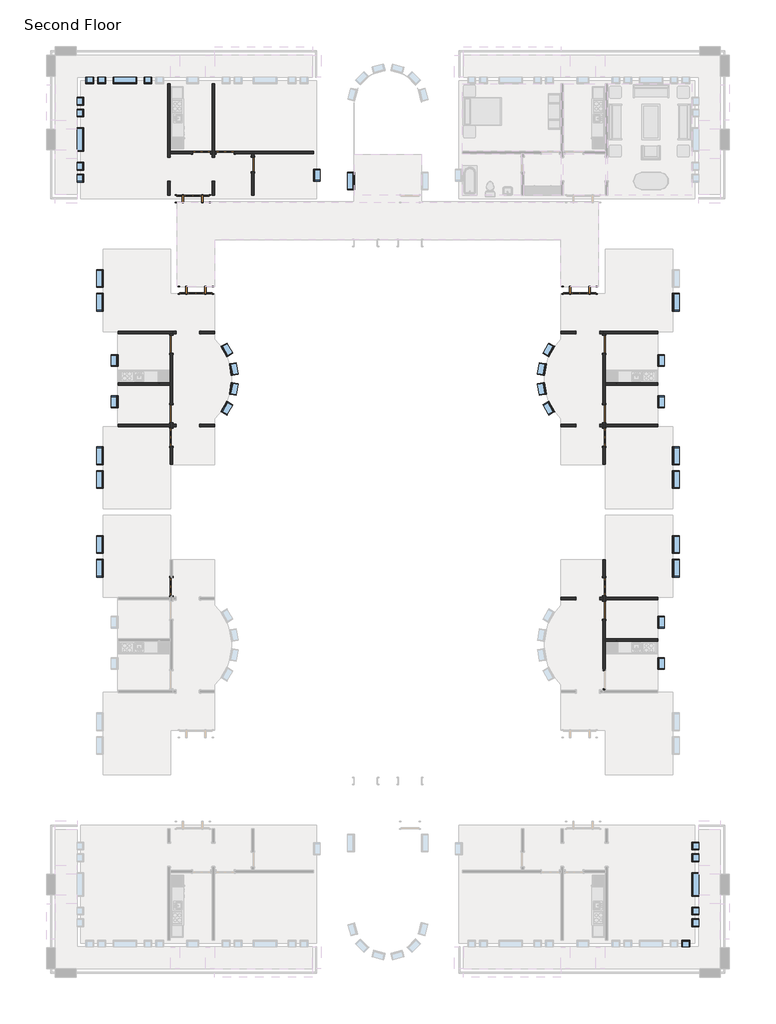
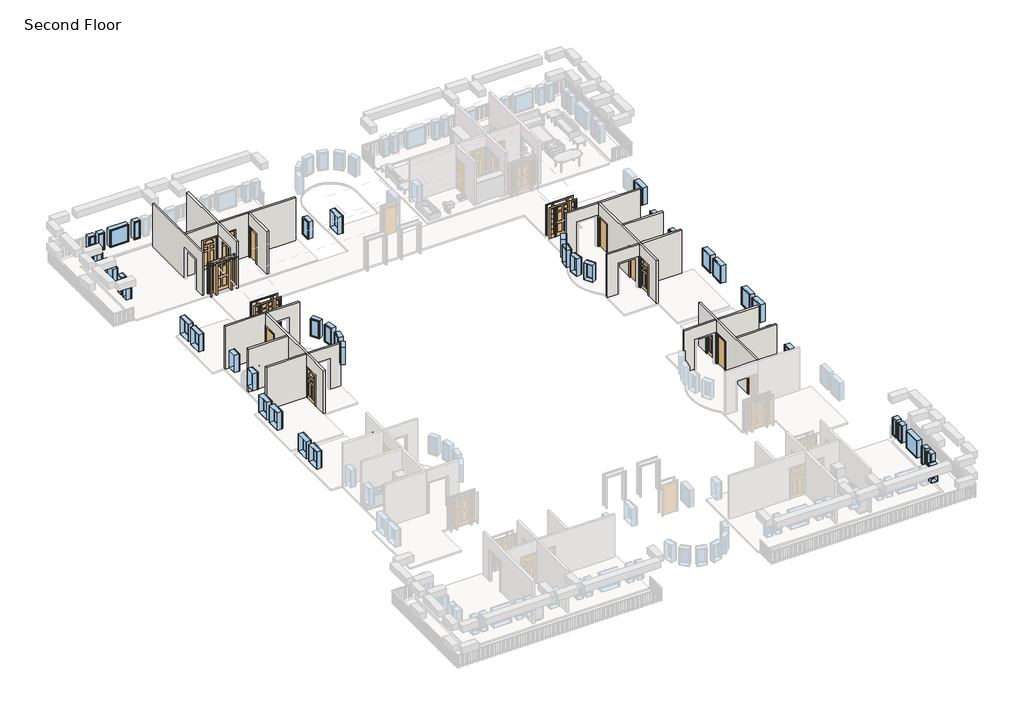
# One storey, part 2 of 4: 42 windows, 21 walls, 15 doors.
"""IFC4 building model written with IfcOpenShell, lengths in millimetres."""

from ifc_helpers import new_model, si_unit, frame, origin, place, context, project, spatial, polyline, outline, extrude, faceted_brep, transform, mapped, element, save
from components import door_829da954, door_2e3b4da2, door_e36758a9, door_a1797ceb, door_a3eb833a, door_dba5aa2e, door_ffdb1193, window_da97879f, window_d61ef850, window_60baf983, window_ed80354a, window_15c49d37, window_0e2fc6ce, window_d89bf842

model = new_model("IFC4")

# Units and contexts
model_context = context("Model", 3, world=origin())
ifc_project = project(units=[si_unit("LENGTHUNIT", "METRE", prefix="MILLI")], contexts=[model_context])

# Site, building, storey
site = spatial("IfcSite", under=ifc_project)
building = spatial("IfcBuilding", under=site)
storey = spatial("IfcBuildingStorey", under=building, Name="Second Floor", Elevation=3048.0)

# Doors
placement = place(None, origin())
door_shape = door_829da954(model_context)
element("IfcDoor", 1, ObjectType="Single-Decorative 2 : 36\" x 84\"", at=placement, inside=storey, context=model_context, shape_type="MappedRepresentation", body=[
    mapped(door_shape, transform((-3900.4589563, -7954.4808133, 3048.0), x_axis=(0.0, 1.0, 0.0), y_axis=(-1.0, 0.0, 0.0), z_axis=(0.0, 0.0, 1.0))),
])
element("IfcDoor", 2, ObjectType="Single-Decorative 2 : 36\" x 84\"", at=placement, inside=storey, context=model_context, shape_type="MappedRepresentation", body=[
    mapped(door_shape, transform((-23455.2839563, 6723.5441867, 3048.0), x_axis=(-1.0, 0.0, 0.0), y_axis=(0.0, -1.0, 0.0), z_axis=(0.0, 0.0, 1.0))),
])
element("IfcDoor", 3, ObjectType="Single-Decorative 2 : 36\" x 84\"", at=placement, inside=storey, context=model_context, shape_type="MappedRepresentation", body=[
    mapped(door_shape, transform((-26223.8839563, -15653.8558133, 3048.0), x_axis=(0.0, -1.0, 0.0), y_axis=(1.0, 0.0, 0.0), z_axis=(0.0, 0.0, 1.0))),
])
door_2_shape = door_2e3b4da2(model_context)
element("IfcDoor", 4, ObjectType="Single-Decorative 2 : 36\" x 84\"", at=placement, inside=storey, context=model_context, shape_type="MappedRepresentation", body=[
    mapped(door_2_shape, transform((-24674.4839563, 6723.5441867, 3048.0), x_axis=(1.0, 0.0, 0.0), y_axis=(0.0, 1.0, 0.0), z_axis=(0.0, 0.0, 1.0))),
])
element("IfcDoor", 5, ObjectType="Single-Decorative 2 : 36\" x 84\"", at=placement, inside=storey, context=model_context, shape_type="MappedRepresentation", body=[
    mapped(door_2_shape, transform((-26223.8839563, -7954.4808133, 3048.0), x_axis=(0.0, 1.0, 0.0), y_axis=(-1.0, 0.0, 0.0), z_axis=(0.0, 0.0, 1.0))),
])
element("IfcDoor", 6, ObjectType="Single-Decorative 2 : 36\" x 84\"", at=placement, inside=storey, context=model_context, shape_type="MappedRepresentation", body=[
    mapped(door_2_shape, transform((-3900.4589563, -15653.8558133, 3048.0), x_axis=(0.0, -1.0, 0.0), y_axis=(1.0, 0.0, 0.0), z_axis=(0.0, 0.0, 1.0))),
])
door_3_shape = door_e36758a9(model_context)
element("IfcDoor", 7, ObjectType="Single-Flush : 30\" x 84\"", at=placement, inside=storey, context=model_context, shape_type="MappedRepresentation", body=[
    mapped(door_3_shape, transform((-22018.5964563, 6113.9441867, 3048.0), x_axis=(0.0, 1.0, 0.0), y_axis=(-1.0, 0.0, 0.0), z_axis=(0.0, 0.0, 1.0))),
])
door_4_shape = door_a1797ceb(model_context)
element("IfcDoor", 8, ObjectType="Single-Flush : 36\" x 84\"", at=placement, inside=storey, context=model_context, shape_type="MappedRepresentation", body=[
    mapped(door_4_shape, transform((-3900.4589563, -6735.2808133, 3048.0), x_axis=(0.0, -1.0, 0.0), y_axis=(1.0, 0.0, 0.0), z_axis=(0.0, 0.0, 1.0))),
])
element("IfcDoor", 9, ObjectType="Single-Flush : 36\" x 84\"", at=placement, inside=storey, context=model_context, shape_type="MappedRepresentation", body=[
    mapped(door_4_shape, transform((-26223.8839563, -3157.0558133, 3048.0), x_axis=(0.0, 1.0, 0.0), y_axis=(-1.0, 0.0, 0.0), z_axis=(0.0, 0.0, 1.0))),
])
door_5_shape = door_a3eb833a(model_context)
element("IfcDoor", 10, ObjectType="Single-Flush : 36\" x 84\"", at=placement, inside=storey, context=model_context, shape_type="MappedRepresentation", body=[
    mapped(door_5_shape, transform((-3900.4589563, -3157.0558133, 3048.0), x_axis=(0.0, 1.0, 0.0), y_axis=(-1.0, 0.0, 0.0), z_axis=(0.0, 0.0, 1.0))),
])
element("IfcDoor", 11, ObjectType="Single-Flush : 36\" x 84\"", at=placement, inside=storey, context=model_context, shape_type="MappedRepresentation", body=[
    mapped(door_5_shape, transform((-26223.8839563, -6735.2808133, 3048.0), x_axis=(0.0, -1.0, 0.0), y_axis=(1.0, 0.0, 0.0), z_axis=(0.0, 0.0, 1.0))),
])
element("IfcDoor", 12, ObjectType="Single-Flush : 36\" x 84\"", at=placement, inside=storey, context=model_context, shape_type="MappedRepresentation", body=[
    mapped(door_5_shape, transform((-3900.4589563, -16873.0558133, 3048.0), x_axis=(0.0, 1.0, 0.0), y_axis=(-1.0, 0.0, 0.0), z_axis=(0.0, 0.0, 1.0))),
])
door_6_shape = door_dba5aa2e(model_context)
element("IfcDoor", 13, ObjectType="Single-Raised Panel with Sidelights : 36\" x 84\"", at=placement, inside=storey, context=model_context, shape_type="MappedRepresentation", body=[
    mapped(door_6_shape, transform((-24968.1714563, -374.1683133, 3048.0), x_axis=(1.0, 0.0, 0.0), y_axis=(0.0, 1.0, 0.0), z_axis=(0.0, 0.0, 1.0))),
])
door_7_shape = door_ffdb1193(model_context)
element("IfcDoor", 14, ObjectType="Single-Raised Panel with Sidelights : 36\" x 84\"", at=placement, inside=storey, context=model_context, shape_type="MappedRepresentation", body=[
    mapped(door_7_shape, transform((-5156.1714563, -374.1683133, 3048.0), x_axis=(-1.0, 0.0, 0.0), y_axis=(0.0, -1.0, 0.0), z_axis=(0.0, 0.0, 1.0))),
])
element("IfcDoor", 15, ObjectType="Single-Raised Panel with Sidelights : 36\" x 84\"", at=placement, inside=storey, context=model_context, shape_type="MappedRepresentation", body=[
    mapped(door_7_shape, transform((-25131.6839563, 4350.2316867, 3048.0), x_axis=(1.0, 0.0, 0.0), y_axis=(0.0, 1.0, 0.0), z_axis=(0.0, 0.0, 1.0))),
])

# Walls
element("IfcWall", 16, ObjectType="Interior - 5\" Partition (2-hr)", at=placement, inside=storey, context=model_context, shape_type="Brep", body=[
    faceted_brep([(-1141.3839563, -2483.9558133, 3048.0), (-3963.9589563, -2483.9558133, 3048.0), (-3963.9589563, -2483.9558133, 6096.0), (-1141.3839563, -2483.9558133, 6096.0), (-1141.3839563, -2610.9558133, 3048.0), (-1141.3839563, -2610.9558133, 6096.0), (-3836.9589563, -2610.9558133, 6096.0), (-3963.9589563, -2610.9558133, 6096.0), (-3963.9589563, -2610.9558133, 3048.0), (-3836.9589563, -2610.9558133, 3048.0)], [[[0, 1, 2, 3]], [[4, 5, 6, 7, 8, 9]], [[1, 0, 4, 9, 8]], [[3, 2, 7, 6, 5]], [[2, 1, 8, 7]], [[0, 3, 5, 4]]]),
])
element("IfcWall", 17, ObjectType="Interior - 5\" Partition (2-hr)", at=placement, inside=storey, context=model_context, shape_type="Brep", body=[
    faceted_brep([(-3836.9589563, -7497.2808133, 5181.6), (-3836.9589563, -7497.2808133, 3048.0), (-3836.9589563, -7408.3808133, 3048.0), (-3836.9589563, -7281.3808133, 3048.0), (-3836.9589563, -7192.4808133, 3048.0), (-3836.9589563, -7192.4808133, 5181.6), (-3836.9589563, -6278.0808133, 5181.6), (-3836.9589563, -6278.0808133, 3048.0), (-3836.9589563, -5274.7808133, 3048.0), (-3836.9589563, -5147.7808133, 3048.0), (-3836.9589563, -3614.2558133, 3048.0), (-3836.9589563, -3614.2558133, 5181.6), (-3836.9589563, -2699.8558133, 5181.6), (-3836.9589563, -2699.8558133, 3048.0), (-3836.9589563, -2610.9558133, 3048.0), (-3836.9589563, -2610.9558133, 6096.0), (-3836.9589563, -5147.7808133, 6096.0), (-3836.9589563, -5274.7808133, 6096.0), (-3836.9589563, -7281.3808133, 6096.0), (-3836.9589563, -7408.3808133, 6096.0), (-3836.9589563, -9341.9558133, 6096.0), (-3836.9589563, -9341.9558133, 3048.0), (-3836.9589563, -8411.6808133, 3048.0), (-3836.9589563, -8411.6808133, 5181.6), (-3963.9589563, -7192.4808133, 3048.0), (-3963.9589563, -7281.3808133, 3048.0), (-3963.9589563, -7408.3808133, 3048.0), (-3963.9589563, -7497.2808133, 3048.0), (-3963.9589563, -7497.2808133, 5181.6), (-3963.9589563, -8411.6808133, 5181.6), (-3963.9589563, -8411.6808133, 3048.0), (-3963.9589563, -9341.9558133, 3048.0), (-3963.9589563, -9341.9558133, 6096.0), (-3963.9589563, -7408.3808133, 6096.0), (-3963.9589563, -7281.3808133, 6096.0), (-3963.9589563, -2610.9558133, 6096.0), (-3963.9589563, -2610.9558133, 3048.0), (-3963.9589563, -2699.8558133, 3048.0), (-3963.9589563, -2699.8558133, 5181.6), (-3963.9589563, -3614.2558133, 5181.6), (-3963.9589563, -3614.2558133, 3048.0), (-3963.9589563, -6278.0808133, 3048.0), (-3963.9589563, -6278.0808133, 5181.6), (-3963.9589563, -7192.4808133, 5181.6)], [[[0, 1, 2, 3, 4, 5, 6, 7, 8, 9, 10, 11, 12, 13, 14, 15, 16, 17, 18, 19, 20, 21, 22, 23]], [[24, 25, 26, 27, 28, 29, 30, 31, 32, 33, 34, 35, 36, 37, 38, 39, 40, 41, 42, 43]], [[14, 13, 37, 36]], [[4, 3, 2, 1, 27, 26, 25, 24]], [[41, 40, 10, 9, 8, 7]], [[22, 21, 31, 30]], [[20, 19, 18, 17, 16, 15, 35, 34, 33, 32]], [[15, 14, 36, 35]], [[21, 20, 32, 31]], [[38, 37, 13, 12]], [[39, 38, 12, 11]], [[40, 39, 11, 10]], [[5, 4, 24, 43]], [[6, 5, 43, 42]], [[7, 6, 42, 41]], [[28, 27, 1, 0]], [[29, 28, 0, 23]], [[30, 29, 23, 22]]]),
])
element("IfcWall", 18, ObjectType="Interior - 5\" Partition (2-hr)", at=placement, inside=storey, context=model_context, shape_type="SweptSolid", body=[
    extrude(outline(polyline([(-3836.9589563, -7281.3808133), (-1141.3839563, -7281.3808133), (-1141.3839563, -7408.3808133), (-3836.9589563, -7408.3808133), (-3836.9589563, -7281.3808133)])), frame((0.0, 0.0, 3048.0), z_axis=(0.0, 0.0, 1.0), x_axis=(1.0, 0.0, 0.0)), (0.0, 0.0, 1.0), 3048.0),
])
element("IfcWall", 19, ObjectType="Interior - 5\" Partition (2-hr)", at=placement, inside=storey, context=model_context, shape_type="SweptSolid", body=[
    extrude(outline(polyline([(-1141.3839563, -5274.7808133), (-3836.9589563, -5274.7808133), (-3836.9589563, -5147.7808133), (-1141.3839563, -5147.7808133), (-1141.3839563, -5274.7808133)])), frame((0.0, 0.0, 3048.0), z_axis=(0.0, 0.0, 1.0), x_axis=(1.0, 0.0, 0.0)), (0.0, 0.0, 1.0), 3048.0),
])
element("IfcWall", 20, ObjectType="Interior - 5\" Partition (2-hr)", at=placement, inside=storey, context=model_context, shape_type="SweptSolid", body=[
    extrude(outline(polyline([(3048.0, -6122.9589563), (3048.0, -5348.2589563), (5181.6, -5348.2589563), (5181.6, -4129.0589563), (3048.0, -4129.0589563), (3048.0, -3963.9589563), (6096.0, -3963.9589563), (6096.0, -6122.9589563), (3048.0, -6122.9589563)])), frame((0.0, -7408.3808133, 0.0), z_axis=(0.0, 1.0, 0.0), x_axis=(0.0, 0.0, 1.0)), (0.0, 0.0, 1.0), 127.0),
])
element("IfcWall", 21, ObjectType="Interior - 5\" Partition (2-hr)", at=placement, inside=storey, context=model_context, shape_type="SweptSolid", body=[
    extrude(outline(polyline([(5181.6, -4129.0589563), (3048.0, -4129.0589563), (3048.0, -3963.9589563), (6096.0, -3963.9589563), (6096.0, -6122.9589563), (3048.0, -6122.9589563), (3048.0, -5348.2589563), (5181.6, -5348.2589563), (5181.6, -4129.0589563)])), frame((0.0, -2610.9558133, 0.0), z_axis=(0.0, 1.0, 0.0), x_axis=(0.0, 0.0, 1.0)), (0.0, 0.0, 1.0), 127.0),
])
element("IfcWall", 22, ObjectType="Interior - 5\" Partition (2-hr)", at=placement, inside=storey, context=model_context, shape_type="Brep", body=[
    faceted_brep([(-26414.3839563, 10270.0191867, 3048.0), (-26414.3839563, 6483.8316867, 3048.0), (-26414.3839563, 6483.8316867, 5181.6), (-26414.3839563, 5264.6316867, 5181.6), (-26414.3839563, 5264.6316867, 3048.0), (-26414.3839563, 4526.4441867, 3048.0), (-26414.3839563, 4526.4441867, 6096.0), (-26414.3839563, 10270.0191867, 6096.0), (-26287.3839563, 6483.8316867, 5181.6), (-26287.3839563, 6483.8316867, 3048.0), (-26287.3839563, 6660.0441867, 3048.0), (-26287.3839563, 6787.0441867, 3048.0), (-26287.3839563, 10270.0191867, 3048.0), (-26287.3839563, 10270.0191867, 6096.0), (-26287.3839563, 6787.0441867, 6096.0), (-26287.3839563, 6660.0441867, 6096.0), (-26287.3839563, 4526.4441867, 6096.0), (-26287.3839563, 4526.4441867, 3048.0), (-26287.3839563, 5264.6316867, 3048.0), (-26287.3839563, 5264.6316867, 5181.6)], [[[0, 1, 2, 3, 4, 5, 6, 7]], [[8, 9, 10, 11, 12, 13, 14, 15, 16, 17, 18, 19]], [[12, 11, 10, 9, 1, 0]], [[18, 17, 5, 4]], [[7, 6, 16, 15, 14, 13]], [[0, 7, 13, 12]], [[6, 5, 17, 16]], [[4, 3, 19, 18]], [[2, 1, 9, 8]], [[3, 2, 8, 19]]]),
])
element("IfcWall", 23, ObjectType="Interior - 5\" Partition (2-hr)", at=placement, inside=storey, context=model_context, shape_type="Brep", body=[
    faceted_brep([(-24128.3839563, 5264.6316867, 5181.6), (-24128.3839563, 5264.6316867, 3048.0), (-24128.3839563, 4526.4441867, 3048.0), (-24128.3839563, 4526.4441867, 6096.0), (-24128.3839563, 6660.0441867, 6096.0), (-24128.3839563, 6787.0441867, 6096.0), (-24128.3839563, 10270.0191867, 6096.0), (-24128.3839563, 10270.0191867, 3048.0), (-24128.3839563, 6787.0441867, 3048.0), (-24128.3839563, 6660.0441867, 3048.0), (-24128.3839563, 6483.8316867, 3048.0), (-24128.3839563, 6483.8316867, 5181.6), (-24001.3839563, 4526.4441867, 3048.0), (-24001.3839563, 5264.6316867, 3048.0), (-24001.3839563, 5264.6316867, 5181.6), (-24001.3839563, 6483.8316867, 5181.6), (-24001.3839563, 6483.8316867, 3048.0), (-24001.3839563, 6660.0441867, 3048.0), (-24001.3839563, 6787.0441867, 3048.0), (-24001.3839563, 10270.0191867, 3048.0), (-24001.3839563, 10270.0191867, 6096.0), (-24001.3839563, 6787.0441867, 6096.0), (-24001.3839563, 6660.0441867, 6096.0), (-24001.3839563, 4526.4441867, 6096.0)], [[[0, 1, 2, 3, 4, 5, 6, 7, 8, 9, 10, 11]], [[12, 13, 14, 15, 16, 17, 18, 19, 20, 21, 22, 23]], [[2, 1, 13, 12]], [[10, 9, 8, 7, 19, 18, 17, 16]], [[6, 5, 4, 3, 23, 22, 21, 20]], [[7, 6, 20, 19]], [[3, 2, 12, 23]], [[16, 15, 11, 10]], [[14, 13, 1, 0]], [[15, 14, 0, 11]]]),
])
element("IfcWall", 24, ObjectType="Interior - 5\" Partition (2-hr)", at=placement, inside=storey, context=model_context, shape_type="Brep", body=[
    faceted_brep([(-23912.4839563, 6787.0441867, 5181.6), (-23912.4839563, 6787.0441867, 3048.0), (-24001.3839563, 6787.0441867, 3048.0), (-24001.3839563, 6787.0441867, 6096.0), (-18907.0964563, 6787.0441867, 6096.0), (-18907.0964563, 6787.0441867, 3048.0), (-22998.0839563, 6787.0441867, 3048.0), (-22998.0839563, 6787.0441867, 5181.6), (-24001.3839563, 6660.0441867, 3048.0), (-23912.4839563, 6660.0441867, 3048.0), (-23912.4839563, 6660.0441867, 5181.6), (-22998.0839563, 6660.0441867, 5181.6), (-22998.0839563, 6660.0441867, 3048.0), (-22082.0964563, 6660.0441867, 3048.0), (-21955.0964563, 6660.0441867, 3048.0), (-18907.0964563, 6660.0441867, 3048.0), (-18907.0964563, 6660.0441867, 6096.0), (-21955.0964563, 6660.0441867, 6096.0), (-22082.0964563, 6660.0441867, 6096.0), (-24001.3839563, 6660.0441867, 6096.0)], [[[0, 1, 2, 3, 4, 5, 6, 7]], [[8, 9, 10, 11, 12, 13, 14, 15, 16, 17, 18, 19]], [[2, 1, 9, 8]], [[6, 5, 15, 14, 13, 12]], [[4, 3, 19, 18, 17, 16]], [[3, 2, 8, 19]], [[5, 4, 16, 15]], [[10, 9, 1, 0]], [[11, 10, 0, 7]], [[12, 11, 7, 6]]]),
])
element("IfcWall", 25, ObjectType="Interior - 5\" Partition (2-hr)", at=placement, inside=storey, context=model_context, shape_type="SweptSolid", body=[
    extrude(outline(polyline([(6660.0441867, 3048.0), (6494.9441867, 3048.0), (6494.9441867, 5181.6), (5732.9441867, 5181.6), (5732.9441867, 3048.0), (4526.4441867, 3048.0), (4526.4441867, 6096.0), (6660.0441867, 6096.0), (6660.0441867, 3048.0)])), frame((-22082.0964563, 0.0, 0.0), z_axis=(1.0, 0.0, 0.0), x_axis=(0.0, 1.0, 0.0)), (0.0, 0.0, 1.0), 127.0),
])
element("IfcWall", 26, ObjectType="Interior - 5\" Partition (2-hr)", at=placement, inside=storey, context=model_context, shape_type="SweptSolid", body=[
    extrude(outline(polyline([(5181.6, -24217.2839563), (3048.0, -24217.2839563), (3048.0, -24128.3839563), (6096.0, -24128.3839563), (6096.0, -26287.3839563), (3048.0, -26287.3839563), (3048.0, -25131.6839563), (5181.6, -25131.6839563), (5181.6, -24217.2839563)])), frame((0.0, 6660.0441867, 0.0), z_axis=(0.0, 1.0, 0.0), x_axis=(0.0, 0.0, 1.0)), (0.0, 0.0, 1.0), 127.0),
])
element("IfcWall", 27, ObjectType="Interior - 5\" Partition (2-hr)", at=placement, inside=storey, context=model_context, shape_type="Brep", body=[
    faceted_brep([(-28982.9589563, -2610.9558133, 3048.0), (-26287.3839563, -2610.9558133, 3048.0), (-26160.3839563, -2610.9558133, 3048.0), (-26160.3839563, -2610.9558133, 6096.0), (-26287.3839563, -2610.9558133, 6096.0), (-28982.9589563, -2610.9558133, 6096.0), (-28982.9589563, -2483.9558133, 3048.0), (-28982.9589563, -2483.9558133, 6096.0), (-26160.3839563, -2483.9558133, 6096.0), (-26160.3839563, -2483.9558133, 3048.0)], [[[0, 1, 2, 3, 4, 5]], [[6, 7, 8, 9]], [[2, 1, 0, 6, 9]], [[5, 4, 3, 8, 7]], [[3, 2, 9, 8]], [[0, 5, 7, 6]]]),
])
element("IfcWall", 28, ObjectType="Interior - 5\" Partition (2-hr)", at=placement, inside=storey, context=model_context, shape_type="Brep", body=[
    faceted_brep([(-26160.3839563, -7497.2808133, 5181.6), (-26160.3839563, -7497.2808133, 3048.0), (-26160.3839563, -7408.3808133, 3048.0), (-26160.3839563, -7281.3808133, 3048.0), (-26160.3839563, -7192.4808133, 3048.0), (-26160.3839563, -7192.4808133, 5181.6), (-26160.3839563, -6278.0808133, 5181.6), (-26160.3839563, -6278.0808133, 3048.0), (-26160.3839563, -3614.2558133, 3048.0), (-26160.3839563, -3614.2558133, 5181.6), (-26160.3839563, -2699.8558133, 5181.6), (-26160.3839563, -2699.8558133, 3048.0), (-26160.3839563, -2610.9558133, 3048.0), (-26160.3839563, -2610.9558133, 6096.0), (-26160.3839563, -7281.3808133, 6096.0), (-26160.3839563, -7408.3808133, 6096.0), (-26160.3839563, -9341.9558133, 6096.0), (-26160.3839563, -9341.9558133, 3048.0), (-26160.3839563, -8411.6808133, 3048.0), (-26160.3839563, -8411.6808133, 5181.6), (-26287.3839563, -7192.4808133, 3048.0), (-26287.3839563, -7281.3808133, 3048.0), (-26287.3839563, -7408.3808133, 3048.0), (-26287.3839563, -7497.2808133, 3048.0), (-26287.3839563, -7497.2808133, 5181.6), (-26287.3839563, -8411.6808133, 5181.6), (-26287.3839563, -8411.6808133, 3048.0), (-26287.3839563, -9341.9558133, 3048.0), (-26287.3839563, -9341.9558133, 6096.0), (-26287.3839563, -7408.3808133, 6096.0), (-26287.3839563, -7281.3808133, 6096.0), (-26287.3839563, -5274.7808133, 6096.0), (-26287.3839563, -5147.7808133, 6096.0), (-26287.3839563, -2610.9558133, 6096.0), (-26287.3839563, -2610.9558133, 3048.0), (-26287.3839563, -2699.8558133, 3048.0), (-26287.3839563, -2699.8558133, 5181.6), (-26287.3839563, -3614.2558133, 5181.6), (-26287.3839563, -3614.2558133, 3048.0), (-26287.3839563, -5147.7808133, 3048.0), (-26287.3839563, -5274.7808133, 3048.0), (-26287.3839563, -6278.0808133, 3048.0), (-26287.3839563, -6278.0808133, 5181.6), (-26287.3839563, -7192.4808133, 5181.6)], [[[0, 1, 2, 3, 4, 5, 6, 7, 8, 9, 10, 11, 12, 13, 14, 15, 16, 17, 18, 19]], [[20, 21, 22, 23, 24, 25, 26, 27, 28, 29, 30, 31, 32, 33, 34, 35, 36, 37, 38, 39, 40, 41, 42, 43]], [[12, 11, 35, 34]], [[4, 3, 2, 1, 23, 22, 21, 20]], [[41, 40, 39, 38, 8, 7]], [[18, 17, 27, 26]], [[16, 15, 14, 13, 33, 32, 31, 30, 29, 28]], [[13, 12, 34, 33]], [[17, 16, 28, 27]], [[36, 35, 11, 10]], [[37, 36, 10, 9]], [[38, 37, 9, 8]], [[5, 4, 20, 43]], [[6, 5, 43, 42]], [[7, 6, 42, 41]], [[24, 23, 1, 0]], [[25, 24, 0, 19]], [[26, 25, 19, 18]]]),
])
element("IfcWall", 29, ObjectType="Interior - 5\" Partition (2-hr)", at=placement, inside=storey, context=model_context, shape_type="SweptSolid", body=[
    extrude(outline(polyline([(-26287.3839563, -7408.3808133), (-28982.9589563, -7408.3808133), (-28982.9589563, -7281.3808133), (-26287.3839563, -7281.3808133), (-26287.3839563, -7408.3808133)])), frame((0.0, 0.0, 3048.0), z_axis=(0.0, 0.0, 1.0), x_axis=(1.0, 0.0, 0.0)), (0.0, 0.0, 1.0), 3048.0),
])
element("IfcWall", 30, ObjectType="Interior - 5\" Partition (2-hr)", at=placement, inside=storey, context=model_context, shape_type="SweptSolid", body=[
    extrude(outline(polyline([(-28982.9589563, -5147.7808133), (-26287.3839563, -5147.7808133), (-26287.3839563, -5274.7808133), (-28982.9589563, -5274.7808133), (-28982.9589563, -5147.7808133)])), frame((0.0, 0.0, 3048.0), z_axis=(0.0, 0.0, 1.0), x_axis=(1.0, 0.0, 0.0)), (0.0, 0.0, 1.0), 3048.0),
])
element("IfcWall", 31, ObjectType="Interior - 5\" Partition (2-hr)", at=placement, inside=storey, context=model_context, shape_type="SweptSolid", body=[
    extrude(outline(polyline([(5181.6, -24776.0839563), (3048.0, -24776.0839563), (3048.0, -24001.3839563), (6096.0, -24001.3839563), (6096.0, -26160.3839563), (3048.0, -26160.3839563), (3048.0, -25995.2839563), (5181.6, -25995.2839563), (5181.6, -24776.0839563)])), frame((0.0, -7408.3808133, 0.0), z_axis=(0.0, 1.0, 0.0), x_axis=(0.0, 0.0, 1.0)), (0.0, 0.0, 1.0), 127.0),
])
element("IfcWall", 32, ObjectType="Interior - 5\" Partition (2-hr)", at=placement, inside=storey, context=model_context, shape_type="SweptSolid", body=[
    extrude(outline(polyline([(3048.0, -26160.3839563), (3048.0, -25995.2839563), (5181.6, -25995.2839563), (5181.6, -24776.0839563), (3048.0, -24776.0839563), (3048.0, -24001.3839563), (6096.0, -24001.3839563), (6096.0, -26160.3839563), (3048.0, -26160.3839563)])), frame((0.0, -2610.9558133, 0.0), z_axis=(0.0, 1.0, 0.0), x_axis=(0.0, 0.0, 1.0)), (0.0, 0.0, 1.0), 127.0),
])
element("IfcWall", 33, ObjectType="Interior - 5\" Partition (2-hr)", at=placement, inside=storey, context=model_context, shape_type="Brep", body=[
    faceted_brep([(-3963.9589563, -16111.0558133, 5181.6), (-3963.9589563, -16111.0558133, 3048.0), (-3963.9589563, -16199.9558133, 3048.0), (-3963.9589563, -16326.9558133, 3048.0), (-3963.9589563, -16415.8558133, 3048.0), (-3963.9589563, -16415.8558133, 5181.6), (-3963.9589563, -17330.2558133, 5181.6), (-3963.9589563, -17330.2558133, 3048.0), (-3963.9589563, -19994.0808133, 3048.0), (-3963.9589563, -19994.0808133, 5181.6), (-3963.9589563, -20908.4808133, 5181.6), (-3963.9589563, -20908.4808133, 3048.0), (-3963.9589563, -20997.3808133, 3048.0), (-3963.9589563, -20997.3808133, 6096.0), (-3963.9589563, -16326.9558133, 6096.0), (-3963.9589563, -16199.9558133, 6096.0), (-3963.9589563, -14266.3808133, 6096.0), (-3963.9589563, -14266.3808133, 3048.0), (-3963.9589563, -15196.6558133, 3048.0), (-3963.9589563, -15196.6558133, 5181.6), (-3836.9589563, -16415.8558133, 3048.0), (-3836.9589563, -16326.9558133, 3048.0), (-3836.9589563, -16199.9558133, 3048.0), (-3836.9589563, -16111.0558133, 3048.0), (-3836.9589563, -16111.0558133, 5181.6), (-3836.9589563, -15196.6558133, 5181.6), (-3836.9589563, -15196.6558133, 3048.0), (-3836.9589563, -14266.3808133, 3048.0), (-3836.9589563, -14266.3808133, 6096.0), (-3836.9589563, -16199.9558133, 6096.0), (-3836.9589563, -16326.9558133, 6096.0), (-3836.9589563, -18333.5558133, 6096.0), (-3836.9589563, -18460.5558133, 6096.0), (-3836.9589563, -20997.3808133, 6096.0), (-3836.9589563, -20997.3808133, 3048.0), (-3836.9589563, -20908.4808133, 3048.0), (-3836.9589563, -20908.4808133, 5181.6), (-3836.9589563, -19994.0808133, 5181.6), (-3836.9589563, -19994.0808133, 3048.0), (-3836.9589563, -18460.5558133, 3048.0), (-3836.9589563, -18333.5558133, 3048.0), (-3836.9589563, -17330.2558133, 3048.0), (-3836.9589563, -17330.2558133, 5181.6), (-3836.9589563, -16415.8558133, 5181.6)], [[[0, 1, 2, 3, 4, 5, 6, 7, 8, 9, 10, 11, 12, 13, 14, 15, 16, 17, 18, 19]], [[20, 21, 22, 23, 24, 25, 26, 27, 28, 29, 30, 31, 32, 33, 34, 35, 36, 37, 38, 39, 40, 41, 42, 43]], [[12, 11, 35, 34]], [[4, 3, 2, 1, 23, 22, 21, 20]], [[41, 40, 39, 38, 8, 7]], [[18, 17, 27, 26]], [[16, 15, 14, 13, 33, 32, 31, 30, 29, 28]], [[13, 12, 34, 33]], [[17, 16, 28, 27]], [[36, 35, 11, 10]], [[37, 36, 10, 9]], [[38, 37, 9, 8]], [[5, 4, 20, 43]], [[6, 5, 43, 42]], [[7, 6, 42, 41]], [[24, 23, 1, 0]], [[25, 24, 0, 19]], [[26, 25, 19, 18]]]),
])
element("IfcWall", 34, ObjectType="Interior - 5\" Partition (2-hr)", at=placement, inside=storey, context=model_context, shape_type="SweptSolid", body=[
    extrude(outline(polyline([(-3836.9589563, -16199.9558133), (-1141.3839563, -16199.9558133), (-1141.3839563, -16326.9558133), (-3836.9589563, -16326.9558133), (-3836.9589563, -16199.9558133)])), frame((0.0, 0.0, 3048.0), z_axis=(0.0, 0.0, 1.0), x_axis=(1.0, 0.0, 0.0)), (0.0, 0.0, 1.0), 3048.0),
])
element("IfcWall", 35, ObjectType="Interior - 5\" Partition (2-hr)", at=placement, inside=storey, context=model_context, shape_type="SweptSolid", body=[
    extrude(outline(polyline([(-1141.3839563, -18460.5558133), (-3836.9589563, -18460.5558133), (-3836.9589563, -18333.5558133), (-1141.3839563, -18333.5558133), (-1141.3839563, -18460.5558133)])), frame((0.0, 0.0, 3048.0), z_axis=(0.0, 0.0, 1.0), x_axis=(1.0, 0.0, 0.0)), (0.0, 0.0, 1.0), 3048.0),
])
element("IfcWall", 36, ObjectType="Interior - 5\" Partition (2-hr)", at=placement, inside=storey, context=model_context, shape_type="SweptSolid", body=[
    extrude(outline(polyline([(3048.0, -6122.9589563), (3048.0, -5348.2589563), (5181.6, -5348.2589563), (5181.6, -4129.0589563), (3048.0, -4129.0589563), (3048.0, -3963.9589563), (6096.0, -3963.9589563), (6096.0, -6122.9589563), (3048.0, -6122.9589563)])), frame((0.0, -16326.9558133, 0.0), z_axis=(0.0, 1.0, 0.0), x_axis=(0.0, 0.0, 1.0)), (0.0, 0.0, 1.0), 127.0),
])

# Windows
window_shape = window_da97879f(model_context)
element("IfcWindow", 37, ObjectType="Fixed : 16\" x 48\"", at=placement, inside=storey, context=model_context, shape_type="MappedRepresentation", body=[
    mapped(window_shape, transform((-30478.3839563, 10446.2316867, 3048.0), x_axis=(-1.0, 0.0, 0.0), y_axis=(0.0, -1.0, 0.0), z_axis=(0.0, 0.0, 1.0))),
])
element("IfcWindow", 38, ObjectType="Fixed : 16\" x 48\"", at=placement, inside=storey, context=model_context, shape_type="MappedRepresentation", body=[
    mapped(window_shape, transform((-29868.7839563, 10446.2316867, 3048.0), x_axis=(-1.0, 0.0, 0.0), y_axis=(0.0, -1.0, 0.0), z_axis=(0.0, 0.0, 1.0))),
])
element("IfcWindow", 39, ObjectType="Fixed : 16\" x 48\"", at=placement, inside=storey, context=model_context, shape_type="MappedRepresentation", body=[
    mapped(window_shape, transform((-30922.8839563, 5378.9316867, 3048.0), x_axis=(0.0, -1.0, 0.0), y_axis=(1.0, 0.0, 0.0), z_axis=(0.0, 0.0, 1.0))),
])
element("IfcWindow", 40, ObjectType="Fixed : 16\" x 48\"", at=placement, inside=storey, context=model_context, shape_type="MappedRepresentation", body=[
    mapped(window_shape, transform((-30922.8839563, 5988.5316867, 3048.0), x_axis=(0.0, -1.0, 0.0), y_axis=(1.0, 0.0, 0.0), z_axis=(0.0, 0.0, 1.0))),
])
element("IfcWindow", 41, ObjectType="Fixed : 16\" x 48\"", at=placement, inside=storey, context=model_context, shape_type="MappedRepresentation", body=[
    mapped(window_shape, transform((354.0410437, -34054.5683133, 3048.0), x_axis=(1.0, 0.0, 0.0), y_axis=(0.0, 1.0, 0.0), z_axis=(0.0, 0.0, 1.0))),
])
element("IfcWindow", 42, ObjectType="Fixed : 16\" x 48\"", at=placement, inside=storey, context=model_context, shape_type="MappedRepresentation", body=[
    mapped(window_shape, transform((798.5410437, -28987.2683133, 3048.0), x_axis=(0.0, 1.0, 0.0), y_axis=(-1.0, 0.0, 0.0), z_axis=(0.0, 0.0, 1.0))),
])
element("IfcWindow", 43, ObjectType="Fixed : 16\" x 48\"", at=placement, inside=storey, context=model_context, shape_type="MappedRepresentation", body=[
    mapped(window_shape, transform((798.5410437, -29596.8683133, 3048.0), x_axis=(0.0, 1.0, 0.0), y_axis=(-1.0, 0.0, 0.0), z_axis=(0.0, 0.0, 1.0))),
])
window_2_shape = window_d61ef850(model_context)
element("IfcWindow", 44, ObjectType="Fixed : 16\" x 48\"", at=placement, inside=storey, context=model_context, shape_type="MappedRepresentation", body=[
    mapped(window_2_shape, transform((-27404.9839563, 10446.2316867, 3048.0), x_axis=(1.0, 0.0, 0.0), y_axis=(0.0, 1.0, 0.0), z_axis=(0.0, 0.0, 1.0))),
])
element("IfcWindow", 45, ObjectType="Fixed : 16\" x 48\"", at=placement, inside=storey, context=model_context, shape_type="MappedRepresentation", body=[
    mapped(window_2_shape, transform((-30922.8839563, 9417.5316867, 3048.0), x_axis=(0.0, 1.0, 0.0), y_axis=(-1.0, 0.0, 0.0), z_axis=(0.0, 0.0, 1.0))),
])
element("IfcWindow", 46, ObjectType="Fixed : 16\" x 48\"", at=placement, inside=storey, context=model_context, shape_type="MappedRepresentation", body=[
    mapped(window_2_shape, transform((-30922.8839563, 8807.9316867, 3048.0), x_axis=(0.0, 1.0, 0.0), y_axis=(-1.0, 0.0, 0.0), z_axis=(0.0, 0.0, 1.0))),
])
element("IfcWindow", 47, ObjectType="Fixed : 16\" x 48\"", at=placement, inside=storey, context=model_context, shape_type="MappedRepresentation", body=[
    mapped(window_2_shape, transform((798.5410437, -33025.8683133, 3048.0), x_axis=(0.0, -1.0, 0.0), y_axis=(1.0, 0.0, 0.0), z_axis=(0.0, 0.0, 1.0))),
])
element("IfcWindow", 48, ObjectType="Fixed : 16\" x 48\"", at=placement, inside=storey, context=model_context, shape_type="MappedRepresentation", body=[
    mapped(window_2_shape, transform((798.5410437, -32416.2683133, 3048.0), x_axis=(0.0, -1.0, 0.0), y_axis=(1.0, 0.0, 0.0), z_axis=(0.0, 0.0, 1.0))),
])
window_3_shape = window_60baf983(model_context)
element("IfcWindow", 49, ObjectType="Fixed : 24\" x 48\"", at=placement, inside=storey, context=model_context, shape_type="MappedRepresentation", body=[
    mapped(window_3_shape, transform((-6775.1467215, -3474.0215337, 3048.0), x_axis=(-0.496191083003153, -0.868213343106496, 0.0), y_axis=(0.868213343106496, -0.496191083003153, 0.0), z_axis=(0.0, 0.0, 1.0))),
])
element("IfcWindow", 50, ObjectType="Fixed : 24\" x 48\"", at=placement, inside=storey, context=model_context, shape_type="MappedRepresentation", body=[
    mapped(window_3_shape, transform((-7118.4751134, -4468.822297, 3048.0), x_axis=(-0.16973229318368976, -0.9854902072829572, 0.0), y_axis=(0.9854902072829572, -0.16973229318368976, 0.0), z_axis=(0.0, 0.0, 1.0))),
])
element("IfcWindow", 51, ObjectType="Fixed : 24\" x 48\"", at=placement, inside=storey, context=model_context, shape_type="MappedRepresentation", body=[
    mapped(window_3_shape, transform((-29159.1714563, -4030.1808133, 3048.0), x_axis=(0.0, -1.0, 0.0), y_axis=(1.0, 0.0, 0.0), z_axis=(0.0, 0.0, 1.0))),
])
element("IfcWindow", 52, ObjectType="Fixed : 24\" x 48\"", at=placement, inside=storey, context=model_context, shape_type="MappedRepresentation", body=[
    mapped(window_3_shape, transform((-29159.1714563, -6163.7808133, 3048.0), x_axis=(0.0, -1.0, 0.0), y_axis=(1.0, 0.0, 0.0), z_axis=(0.0, 0.0, 1.0))),
])
element("IfcWindow", 53, ObjectType="Fixed : 24\" x 48\"", at=placement, inside=storey, context=model_context, shape_type="MappedRepresentation", body=[
    mapped(window_3_shape, transform((-23350.7429238, -6417.4311225, 3048.0), x_axis=(0.49619108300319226, 0.8682133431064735, 0.0), y_axis=(-0.8682133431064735, 0.49619108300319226, 0.0), z_axis=(0.0, 0.0, 1.0))),
])
element("IfcWindow", 54, ObjectType="Fixed : 24\" x 48\"", at=placement, inside=storey, context=model_context, shape_type="MappedRepresentation", body=[
    mapped(window_3_shape, transform((-23007.6234621, -5423.2119495, 3048.0), x_axis=(0.1697322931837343, 0.9854902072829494, 0.0), y_axis=(-0.9854902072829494, 0.1697322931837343, 0.0), z_axis=(0.0, 0.0, 1.0))),
])
element("IfcWindow", 55, ObjectType="Fixed : 24\" x 48\"", at=placement, inside=storey, context=model_context, shape_type="MappedRepresentation", body=[
    mapped(window_3_shape, transform((-965.1714563, -19578.1558133, 3048.0), x_axis=(0.0, 1.0, 0.0), y_axis=(-1.0, 0.0, 0.0), z_axis=(0.0, 0.0, 1.0))),
])
element("IfcWindow", 56, ObjectType="Fixed : 24\" x 48\"", at=placement, inside=storey, context=model_context, shape_type="MappedRepresentation", body=[
    mapped(window_3_shape, transform((-965.1714563, -17444.5558133, 3048.0), x_axis=(0.0, 1.0, 0.0), y_axis=(-1.0, 0.0, 0.0), z_axis=(0.0, 0.0, 1.0))),
])
window_4_shape = window_ed80354a(model_context)
element("IfcWindow", 57, ObjectType="Fixed : 24\" x 48\"", at=placement, inside=storey, context=model_context, shape_type="MappedRepresentation", body=[
    mapped(window_4_shape, transform((-965.1714563, -4030.1808133, 3048.0), x_axis=(0.0, -1.0, 0.0), y_axis=(1.0, 0.0, 0.0), z_axis=(0.0, 0.0, 1.0))),
])
element("IfcWindow", 58, ObjectType="Fixed : 24\" x 48\"", at=placement, inside=storey, context=model_context, shape_type="MappedRepresentation", body=[
    mapped(window_4_shape, transform((-965.1714563, -6163.7808133, 3048.0), x_axis=(0.0, -1.0, 0.0), y_axis=(1.0, 0.0, 0.0), z_axis=(0.0, 0.0, 1.0))),
])
element("IfcWindow", 59, ObjectType="Fixed : 24\" x 48\"", at=placement, inside=storey, context=model_context, shape_type="MappedRepresentation", body=[
    mapped(window_4_shape, transform((-6775.1467215, -6418.3150929, 3048.0), x_axis=(-0.49619108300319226, 0.8682133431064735, 0.0), y_axis=(-0.8682133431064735, -0.49619108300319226, 0.0), z_axis=(0.0, 0.0, 1.0))),
])
element("IfcWindow", 60, ObjectType="Fixed : 24\" x 48\"", at=placement, inside=storey, context=model_context, shape_type="MappedRepresentation", body=[
    mapped(window_4_shape, transform((-7118.4751134, -5423.5143296, 3048.0), x_axis=(-0.1697322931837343, 0.9854902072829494, 0.0), y_axis=(-0.9854902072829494, -0.1697322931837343, 0.0), z_axis=(0.0, 0.0, 1.0))),
])
element("IfcWindow", 61, ObjectType="Fixed : 24\" x 48\"", at=placement, inside=storey, context=model_context, shape_type="MappedRepresentation", body=[
    mapped(window_4_shape, transform((-18730.8839563, 5531.3316867, 3048.0), x_axis=(0.0, -1.0, 0.0), y_axis=(1.0, 0.0, 0.0), z_axis=(0.0, 0.0, 1.0))),
])
element("IfcWindow", 62, ObjectType="Fixed : 24\" x 48\"", at=placement, inside=storey, context=model_context, shape_type="MappedRepresentation", body=[
    mapped(window_4_shape, transform((-23350.7429238, -3474.9055042, 3048.0), x_axis=(0.496191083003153, -0.868213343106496, 0.0), y_axis=(0.868213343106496, 0.496191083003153, 0.0), z_axis=(0.0, 0.0, 1.0))),
])
element("IfcWindow", 63, ObjectType="Fixed : 24\" x 48\"", at=placement, inside=storey, context=model_context, shape_type="MappedRepresentation", body=[
    mapped(window_4_shape, transform((-23007.6234621, -4469.1246771, 3048.0), x_axis=(0.16973229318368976, -0.9854902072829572, 0.0), y_axis=(0.9854902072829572, 0.16973229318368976, 0.0), z_axis=(0.0, 0.0, 1.0))),
])
window_5_shape = window_15c49d37(model_context)
element("IfcWindow", 64, ObjectType="Fixed : 36\" x 48\"", at=placement, inside=storey, context=model_context, shape_type="MappedRepresentation", body=[
    mapped(window_5_shape, transform((-16967.1714563, 5226.5316867, 3048.0), x_axis=(0.0, -1.0, 0.0), y_axis=(1.0, 0.0, 0.0), z_axis=(0.0, 0.0, 1.0))),
])
element("IfcWindow", 65, ObjectType="Fixed : 36\" x 48\"", at=placement, inside=storey, context=model_context, shape_type="MappedRepresentation", body=[
    mapped(window_5_shape, transform((-29921.1714563, -10165.8683133, 3048.0), x_axis=(0.0, -1.0, 0.0), y_axis=(1.0, 0.0, 0.0), z_axis=(0.0, 0.0, 1.0))),
])
element("IfcWindow", 66, ObjectType="Fixed : 36\" x 48\"", at=placement, inside=storey, context=model_context, shape_type="MappedRepresentation", body=[
    mapped(window_5_shape, transform((-29921.1714563, -8946.6683133, 3048.0), x_axis=(0.0, -1.0, 0.0), y_axis=(1.0, 0.0, 0.0), z_axis=(0.0, 0.0, 1.0))),
])
element("IfcWindow", 67, ObjectType="Fixed : 36\" x 48\"", at=placement, inside=storey, context=model_context, shape_type="MappedRepresentation", body=[
    mapped(window_5_shape, transform((-29921.1714563, 197.3316867, 3048.0), x_axis=(0.0, -1.0, 0.0), y_axis=(1.0, 0.0, 0.0), z_axis=(0.0, 0.0, 1.0))),
])
element("IfcWindow", 68, ObjectType="Fixed : 36\" x 48\"", at=placement, inside=storey, context=model_context, shape_type="MappedRepresentation", body=[
    mapped(window_5_shape, transform((-29921.1714563, -1021.8683133, 3048.0), x_axis=(0.0, -1.0, 0.0), y_axis=(1.0, 0.0, 0.0), z_axis=(0.0, 0.0, 1.0))),
])
element("IfcWindow", 69, ObjectType="Fixed : 36\" x 48\"", at=placement, inside=storey, context=model_context, shape_type="MappedRepresentation", body=[
    mapped(window_5_shape, transform((-203.1714563, -13442.4683133, 3048.0), x_axis=(0.0, 1.0, 0.0), y_axis=(-1.0, 0.0, 0.0), z_axis=(0.0, 0.0, 1.0))),
])
element("IfcWindow", 70, ObjectType="Fixed : 36\" x 48\"", at=placement, inside=storey, context=model_context, shape_type="MappedRepresentation", body=[
    mapped(window_5_shape, transform((-203.1714563, -14661.6683133, 3048.0), x_axis=(0.0, 1.0, 0.0), y_axis=(-1.0, 0.0, 0.0), z_axis=(0.0, 0.0, 1.0))),
])
window_6_shape = window_0e2fc6ce(model_context)
element("IfcWindow", 71, ObjectType="Fixed : 36\" x 48\"", at=placement, inside=storey, context=model_context, shape_type="MappedRepresentation", body=[
    mapped(window_6_shape, transform((-203.1714563, -10165.8683133, 3048.0), x_axis=(0.0, -1.0, 0.0), y_axis=(1.0, 0.0, 0.0), z_axis=(0.0, 0.0, 1.0))),
])
element("IfcWindow", 72, ObjectType="Fixed : 36\" x 48\"", at=placement, inside=storey, context=model_context, shape_type="MappedRepresentation", body=[
    mapped(window_6_shape, transform((-203.1714563, -8946.6683133, 3048.0), x_axis=(0.0, -1.0, 0.0), y_axis=(1.0, 0.0, 0.0), z_axis=(0.0, 0.0, 1.0))),
])
element("IfcWindow", 73, ObjectType="Fixed : 36\" x 48\"", at=placement, inside=storey, context=model_context, shape_type="MappedRepresentation", body=[
    mapped(window_6_shape, transform((-203.1714563, -1021.8683133, 3048.0), x_axis=(0.0, -1.0, 0.0), y_axis=(1.0, 0.0, 0.0), z_axis=(0.0, 0.0, 1.0))),
])
element("IfcWindow", 74, ObjectType="Fixed : 36\" x 48\"", at=placement, inside=storey, context=model_context, shape_type="MappedRepresentation", body=[
    mapped(window_6_shape, transform((-29921.1714563, -13442.4683133, 3048.0), x_axis=(0.0, 1.0, 0.0), y_axis=(-1.0, 0.0, 0.0), z_axis=(0.0, 0.0, 1.0))),
])
element("IfcWindow", 75, ObjectType="Fixed : 36\" x 48\"", at=placement, inside=storey, context=model_context, shape_type="MappedRepresentation", body=[
    mapped(window_6_shape, transform((-29921.1714563, -14661.6683133, 3048.0), x_axis=(0.0, 1.0, 0.0), y_axis=(-1.0, 0.0, 0.0), z_axis=(0.0, 0.0, 1.0))),
])
window_7_shape = window_d89bf842(model_context)
element("IfcWindow", 76, ObjectType="Fixed : 48\" x 48\"", at=placement, inside=storey, context=model_context, shape_type="MappedRepresentation", body=[
    mapped(window_7_shape, transform((-28598.7839563, 10446.2316867, 3048.0), x_axis=(1.0, 0.0, 0.0), y_axis=(0.0, 1.0, 0.0), z_axis=(0.0, 0.0, 1.0))),
])
element("IfcWindow", 77, ObjectType="Fixed : 48\" x 48\"", at=placement, inside=storey, context=model_context, shape_type="MappedRepresentation", body=[
    mapped(window_7_shape, transform((-30922.8839563, 7436.3316867, 3048.0), x_axis=(0.0, 1.0, 0.0), y_axis=(-1.0, 0.0, 0.0), z_axis=(0.0, 0.0, 1.0))),
])
element("IfcWindow", 78, ObjectType="Fixed : 48\" x 48\"", at=placement, inside=storey, context=model_context, shape_type="MappedRepresentation", body=[
    mapped(window_7_shape, transform((798.5410437, -31044.6683133, 3048.0), x_axis=(0.0, -1.0, 0.0), y_axis=(1.0, 0.0, 0.0), z_axis=(0.0, 0.0, 1.0))),
])

save(model, "model.ifc")
